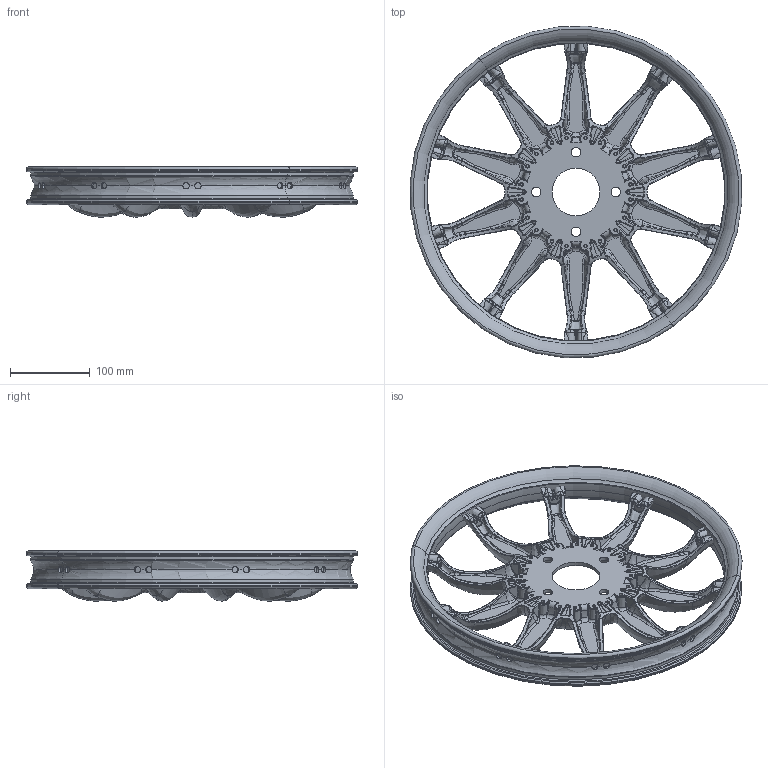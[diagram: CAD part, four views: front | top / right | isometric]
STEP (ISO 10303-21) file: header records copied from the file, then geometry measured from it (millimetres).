
FILE_DESCRIPTION (( 'STEP AP214' ), '1' );
FILE_NAME ('CBW5 Hybrid 35-406 wb.STEP', '2024-01-03T10:37:44', ( '' ), ( '' ), 'SwSTEP 2.0', 'SolidWorks 2023', '' );
FILE_SCHEMA (( 'AUTOMOTIVE_DESIGN' ));
Length unit declared in the file: millimetre
Products named in the file (3): CBW5 Hybrid 35-406 wb; Velg RAD15 Tornado35; CBW5A_21 Hybrid website_Zonder Velg
Assembly tree (2 placements, depth 2):
  CBW5 Hybrid 35-406 wb
    CBW5A_21 Hybrid website_Zonder Velg
    Velg RAD15 Tornado35
Bounding box: 416.21 x 416.21 x 63.05 mm (x, y, z)
Volume: 1340013.3 mm3; surface area: 333959.5 mm2
Topology: 2 solids, 2 shells, 2004 faces, 4936 edges, 2840 vertices
Faces by surface type: bspline 1302, plane 208, cylinder 194, torus 156, cone 144
Entity records: 170004 total; most frequent: CARTESIAN_POINT 133853, ORIENTED_EDGE 9592, EDGE_CURVE 4796, DIRECTION 4668, VERTEX_POINT 2840, B_SPLINE_CURVE_WITH_KNOTS 2790, AXIS2_PLACEMENT_3D 2105, EDGE_LOOP 2060
